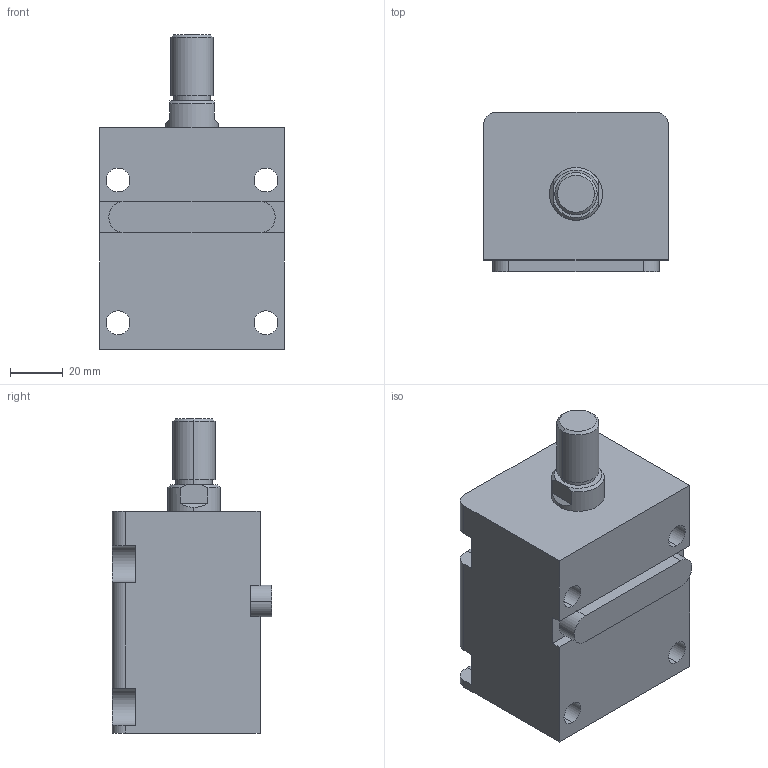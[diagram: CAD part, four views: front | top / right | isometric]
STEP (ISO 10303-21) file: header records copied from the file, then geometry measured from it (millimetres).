
FILE_DESCRIPTION (( 'STEP AP203' ), '1' );
FILE_NAME ('HTB-LA32-30W.STEP', '2019-10-09T06:27:08', ( '微软用户' ), ( '微软中国' ), 'SwSTEP 2.0', 'SolidWorks 2012', '' );
FILE_SCHEMA (( 'CONFIG_CONTROL_DESIGN' ));
Length unit declared in the file: millimetre
Products named in the file (4): HTB-LA32-30掛极; HTB-LA32-30W活塞杆; HTB-LA32-瑩; HTB-LA32-30W
Assembly tree (3 placements, depth 2):
  HTB-LA32-30W
    HTB-LA32-30掛极
    HTB-LA32-30W活塞杆
    HTB-LA32-瑩
Bounding box: 70 x 60.5 x 119 mm (x, y, z)
Volume: 304437.2 mm3; surface area: 54146 mm2
Topology: 3 solids, 3 shells, 92 faces, 223 edges, 146 vertices
Faces by surface type: plane 41, cylinder 37, cone 8, torus 6
Entity records: 3159 total; most frequent: DIRECTION 509, CARTESIAN_POINT 495, ORIENTED_EDGE 446, EDGE_CURVE 223, AXIS2_PLACEMENT_3D 196, VERTEX_POINT 146, LINE 117, VECTOR 117
